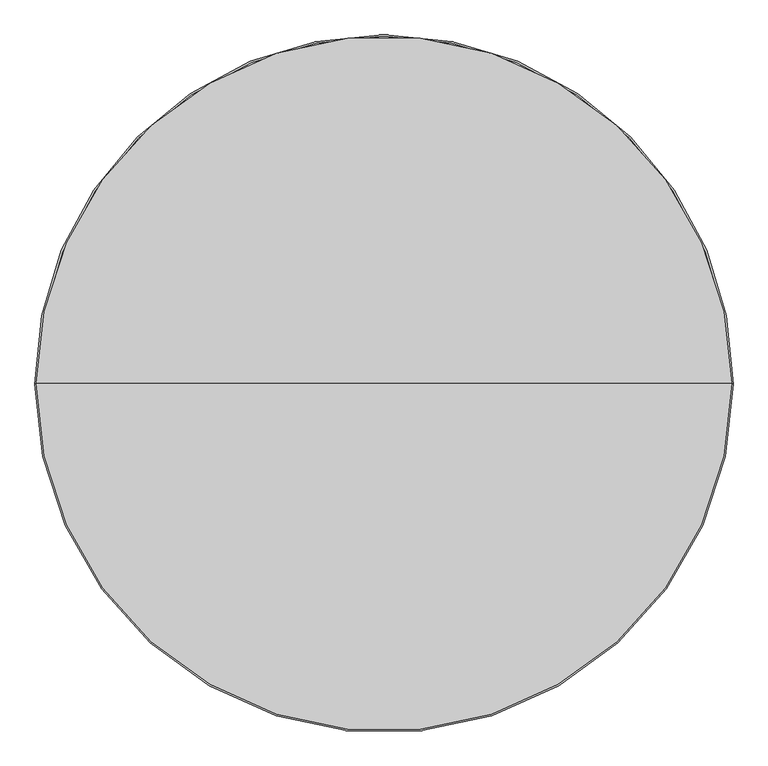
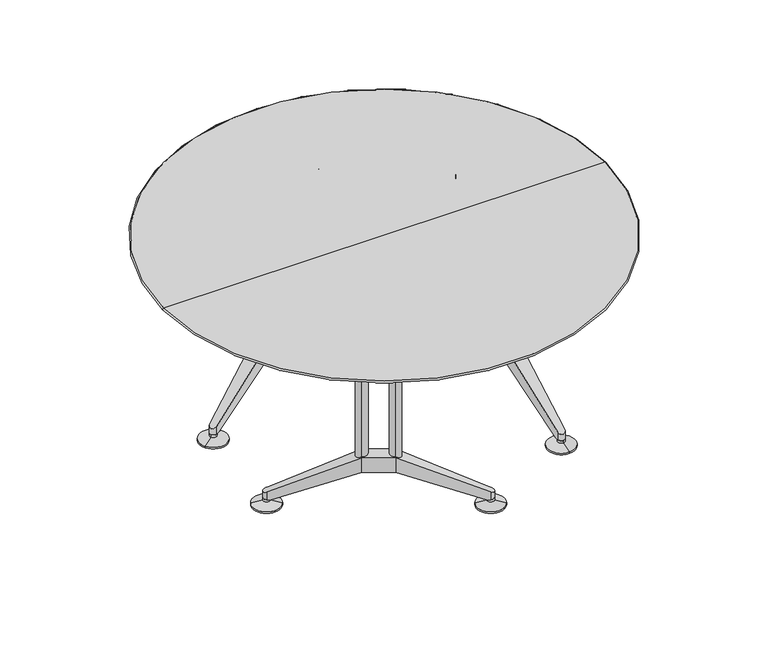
"""IFC4 building model written with IfcOpenShell, lengths in millimetres: furniture geometry, Furniture_Wilkhahn_621-35_Logon Circular Table : Logon 621/35_1600D x 730H."""

from ifc_helpers import new_model, si_unit, point, frame, frame_2d, origin, place, context, project, spatial, polyline, circle_curve, ellipse_curve, trimmed, segment, composite_curve, outline, extrude, source, transform, mapped, element, save
from ifc_brep_helpers import plane_surface, cylinder_surface, revolved_surface, advanced_brep


def furniture_4e294f88(model_context):
    return source(origin(), model_context, "Body", "SolidModel", [
        advanced_brep(
        [(-501.1828683, 228.7674643, 0.0), (-457.8815981, 253.7674643, 0.0), (-544.4841385, 203.7674643, 0.0), (-457.8815981, 253.7674643, 6.0), (-544.4841385, 203.7674643, 6.0), (-490.3786489, 235.0052833, 17.0), (-511.9870878, 222.5296453, 17.0), (-490.3786489, 235.0052833, 27.0), (-511.9870878, 222.5296453, 27.0), (-501.1828683, 228.7674643, 27.0)],
        [
            (0, 1),
            (1, 2, circle_curve(frame((-501.1828683, 228.7674643, 0.0), z_axis=(0.0, 0.0, -1.0), x_axis=(-0.8660254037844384, -0.5000000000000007, 0.0)), 50.0)),
            (2, 0),
            (2, 1, circle_curve(frame((-501.1828683, 228.7674643, 0.0), z_axis=(0.0, 0.0, -1.0), x_axis=(-0.8660254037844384, -0.5000000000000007, 0.0)), 50.0)),
            (1, 3),
            (3, 4, circle_curve(frame((-501.1828683, 228.7674643, 6.0), z_axis=(0.0, 0.0, -1.0), x_axis=(-0.8660254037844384, -0.5000000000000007, 0.0)), 50.0)),
            (4, 2),
            (4, 3, circle_curve(frame((-501.1828683, 228.7674643, 6.0), z_axis=(0.0, 0.0, -1.0), x_axis=(-0.8660254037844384, -0.5000000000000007, 0.0)), 50.0)),
            (3, 5),
            (5, 6, circle_curve(frame((-501.1828683, 228.7674643, 17.0), z_axis=(0.0, 0.0, -1.0), x_axis=(-0.8660254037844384, -0.5000000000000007, 0.0)), 12.475638)),
            (6, 4),
            (6, 5, circle_curve(frame((-501.1828683, 228.7674643, 17.0), z_axis=(0.0, 0.0, -1.0), x_axis=(-0.8660254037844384, -0.5000000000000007, 0.0)), 12.475638)),
            (5, 7),
            (7, 8, circle_curve(frame((-501.1828683, 228.7674643, 27.0), z_axis=(0.0, 0.0, -1.0), x_axis=(-0.8660254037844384, -0.5000000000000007, 0.0)), 12.475638)),
            (8, 6),
            (8, 7, circle_curve(frame((-501.1828683, 228.7674643, 27.0), z_axis=(0.0, 0.0, -1.0), x_axis=(-0.8660254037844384, -0.5000000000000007, 0.0)), 12.475638)),
            (7, 9),
            (9, 8),
        ],
        [
            plane_surface(frame((-501.1828683, 228.7674643, 0.0), z_axis=(0.0, 0.0, -1.0000000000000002), x_axis=(-0.8660254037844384, -0.5000000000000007, 0.0))),
            cylinder_surface(frame((-501.1828683, 228.7674643, 27.0), z_axis=(0.0, 0.0, -1.0), x_axis=(-0.8660254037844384, -0.5000000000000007, 0.0)), 50.0),
            revolved_surface(polyline([(-511.9870878, 222.5296453, 17.0), (-544.4841385, 203.7674643, 6.0)]), (-501.1828683, 228.7674643, 27.0), (0.0, 0.0, -1.0)),
            cylinder_surface(frame((-501.1828683, 228.7674643, 27.0), z_axis=(0.0, 0.0, -1.0), x_axis=(-0.8660254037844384, -0.5000000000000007, 0.0)), 12.475638),
            plane_surface(frame((-501.1828683, 228.7674643, 27.0), z_axis=(0.0, 0.0, 1.0000000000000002), x_axis=(-0.8660254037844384, -0.5000000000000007, 0.0))),
        ],
        [
            (0, [[1, 2, 3]]),
            (0, [[-3, 4, -1]]),
            (1, [[5, 6, 7, -2]]),
            (1, [[-7, 8, -5, -4]]),
            (2, [[9, 10, 11, -6]]),
            (2, [[-11, 12, -9, -8]]),
            (3, [[13, 14, 15, -10]]),
            (3, [[-15, 16, -13, -12]]),
            (4, [[17, 18, -14]]),
            (4, [[-18, -17, -16]]),
        ],
    ),
        advanced_brep(
        [(62.6418658, 554.2918263, 0.0), (105.943136, 579.2918263, 0.0), (149.2444061, 604.2918263, 0.0), (62.6418658, 554.2918263, 6.0), (149.2444061, 604.2918263, 6.0), (95.1389165, 573.0540073, 17.0), (116.7473554, 585.5296453, 17.0), (95.1389165, 573.0540073, 27.0), (116.7473554, 585.5296453, 27.0), (105.943136, 579.2918263, 27.0)],
        [
            (0, 1),
            (1, 2),
            (2, 0, circle_curve(frame((105.943136, 579.2918263, 0.0), z_axis=(0.0, 0.0, -1.0), x_axis=(0.8660254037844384, 0.5000000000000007, 0.0)), 50.0)),
            (0, 2, circle_curve(frame((105.943136, 579.2918263, 0.0), z_axis=(0.0, 0.0, -1.0), x_axis=(0.8660254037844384, 0.5000000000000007, 0.0)), 50.0)),
            (3, 0),
            (2, 4),
            (4, 3, circle_curve(frame((105.943136, 579.2918263, 6.0), z_axis=(0.0, 0.0, -1.0), x_axis=(0.8660254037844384, 0.5000000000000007, 0.0)), 50.0)),
            (3, 4, circle_curve(frame((105.943136, 579.2918263, 6.0), z_axis=(0.0, 0.0, -1.0), x_axis=(0.8660254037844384, 0.5000000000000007, 0.0)), 50.0)),
            (5, 3),
            (4, 6),
            (6, 5, circle_curve(frame((105.943136, 579.2918263, 17.0), z_axis=(0.0, 0.0, -1.0), x_axis=(0.8660254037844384, 0.5000000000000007, 0.0)), 12.475638)),
            (5, 6, circle_curve(frame((105.943136, 579.2918263, 17.0), z_axis=(0.0, 0.0, -1.0), x_axis=(0.8660254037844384, 0.5000000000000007, 0.0)), 12.475638)),
            (7, 5),
            (6, 8),
            (8, 7, circle_curve(frame((105.943136, 579.2918263, 27.0), z_axis=(0.0, 0.0, -1.0), x_axis=(0.8660254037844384, 0.5000000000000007, 0.0)), 12.475638)),
            (7, 8, circle_curve(frame((105.943136, 579.2918263, 27.0), z_axis=(0.0, 0.0, -1.0), x_axis=(0.8660254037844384, 0.5000000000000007, 0.0)), 12.475638)),
            (9, 7),
            (8, 9),
        ],
        [
            plane_surface(frame((105.943136, 579.2918263, 0.0), z_axis=(0.0, 0.0, -1.0000000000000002), x_axis=(0.8660254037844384, 0.5000000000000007, 0.0))),
            cylinder_surface(frame((105.943136, 579.2918263, 27.0), z_axis=(0.0, 0.0, 1.0), x_axis=(0.8660254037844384, 0.5000000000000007, 0.0)), 50.0),
            revolved_surface(polyline([(149.2444061, 604.2918263, 6.0), (116.7473554, 585.5296453, 17.0)]), (105.943136, 579.2918263, 27.0), (0.0, 0.0, 1.0)),
            cylinder_surface(frame((105.943136, 579.2918263, 27.0), z_axis=(0.0, 0.0, 1.0), x_axis=(0.8660254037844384, 0.5000000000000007, 0.0)), 12.475638),
            plane_surface(frame((105.943136, 579.2918263, 27.0), z_axis=(0.0, 0.0, 1.0000000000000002), x_axis=(0.8660254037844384, 0.5000000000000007, 0.0))),
        ],
        [
            (0, [[1, 2, 3]]),
            (0, [[-2, -1, 4]]),
            (1, [[5, -3, 6, 7]]),
            (1, [[-6, -4, -5, 8]]),
            (2, [[9, -7, 10, 11]]),
            (2, [[-10, -8, -9, 12]]),
            (3, [[13, -11, 14, 15]]),
            (3, [[-14, -12, -13, 16]]),
            (4, [[17, -15, 18]]),
            (4, [[-18, -16, -17]]),
        ],
    ),
        extrude(outline(composite_curve([segment(polyline([(-256.0192126, 399.1802804), (-164.2205198, 452.1802804), (-36.3646221, 556.8469052)]), True, "CONTINUOUS"), segment(trimmed(circle_curve(frame_2d((-28.7632782, 547.5614558)), 12.0), [point((-36.3646221, 556.8469052))], [point((-18.3709734, 553.5614558))], False, "CARTESIAN"), True, "CONTINUOUS"), segment(polyline([(-18.3709734, 553.5614558), (21.5029267, 484.4978349)]), True, "CONTINUOUS"), segment(trimmed(circle_curve(frame_2d((11.1106219, 478.4978349)), 12.0), [point((21.5029267, 484.4978349))], [point((15.351385, 467.2721533))], False, "CARTESIAN"), True, "CONTINUOUS"), segment(polyline([(15.351385, 467.2721533), (-139.2205198, 408.8790102), (-231.0192126, 355.8790102), (-358.8751102, 251.2123855)]), True, "CONTINUOUS"), segment(trimmed(circle_curve(frame_2d((-366.4764541, 260.4978349)), 12.0), [point((-358.8751102, 251.2123855))], [point((-376.868759, 254.4978349))], False, "CARTESIAN"), True, "CONTINUOUS"), segment(polyline([(-376.868759, 254.4978349), (-416.7426591, 323.5614558)]), True, "CONTINUOUS"), segment(trimmed(circle_curve(frame_2d((-406.3503543, 329.5614558)), 12.0), [point((-416.7426591, 323.5614558))], [point((-410.5911174, 340.7871374))], False, "CARTESIAN"), True, "CONTINUOUS"), segment(polyline([(-410.5911174, 340.7871374), (-256.0192126, 399.1802804)]), True, "CONTINUOUS")], self_intersect=False)), frame((0.0, 0.0, 675.0), z_axis=(0.0, 0.0, 1.0), x_axis=(1.0, 0.0, 0.0)), (0.0, 0.0, 1.0), 29.0),
        advanced_brep(
        [(-139.2205198, 408.8790102, 140.0), (-139.2205198, 408.8790102, 195.0), (-231.0192126, 355.8790102, 195.0), (-231.0192126, 355.8790102, 140.0), (-164.2205198, 452.1802804, 195.0), (-164.2205198, 452.1802804, 140.0), (-256.0192126, 399.1802804, 140.0), (-256.0192126, 399.1802804, 195.0), (88.3923956, 584.7393244, 27.0), (99.4484257, 590.5409945, 27.0), (116.7473554, 585.5296453, 27.0), (112.4378462, 568.0426582, 27.0), (101.8854375, 561.3686903, 27.0), (112.4378462, 568.0426582, 56.4159205), (116.7473554, 585.5296453, 50.6048844), (99.4484257, 590.5409945, 56.4159205), (-507.6775786, 240.0166325, 56.4159205), (-497.1251698, 246.6906004, 27.0), (-507.6775786, 240.0166325, 27.0), (-494.6881581, 217.5182962, 27.0), (-483.6321279, 223.3199663, 27.0), (-494.6881581, 217.5182962, 56.4159205), (-511.9870878, 222.5296453, 50.6048844), (-511.9870878, 222.5296453, 27.0)],
        [
            (0, 1),
            (1, 2),
            (2, 3),
            (3, 0),
            (4, 5),
            (5, 6),
            (6, 7),
            (7, 4),
            (8, 9),
            (9, 10, circle_curve(frame((105.4890251, 579.0296453, 27.0), z_axis=(0.0, 0.0, -1.0), x_axis=(-0.5000000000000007, 0.8660254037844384, 0.0)), 13.0)),
            (10, 11, circle_curve(frame((105.4890251, 579.0296453, 27.0), z_axis=(0.0, 0.0, -1.0), x_axis=(-0.5000000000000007, 0.8660254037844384, 0.0)), 13.0)),
            (11, 12),
            (12, 8),
            (1, 13),
            (13, 14, ellipse_curve(frame((105.4890251, 579.0296453, 56.6601634), z_axis=(0.3656647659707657, 0.21111665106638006, 0.9064871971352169), x_axis=(0.7850409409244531, 0.4532435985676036, -0.4222333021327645)), 14.341074, 13.0)),
            (14, 15, ellipse_curve(frame((105.4890251, 579.0296453, 56.6601634), z_axis=(0.3656647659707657, 0.21111665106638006, 0.9064871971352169), x_axis=(0.7850409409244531, 0.4532435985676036, -0.4222333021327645)), 14.341074, 13.0)),
            (15, 4),
            (4, 1),
            (5, 8),
            (12, 0),
            (0, 5),
            (16, 7),
            (6, 17),
            (17, 18),
            (18, 16),
            (19, 20),
            (20, 3),
            (2, 21),
            (21, 19),
            (7, 2),
            (3, 6),
            (21, 22, ellipse_curve(frame((-500.7287575, 229.0296453, 56.6601634), z_axis=(0.36566476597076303, 0.21111665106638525, -0.9064871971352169), x_axis=(-0.785040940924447, -0.4532435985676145, -0.4222333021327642)), 14.341074, 13.0)),
            (22, 16, ellipse_curve(frame((-500.7287575, 229.0296453, 56.6601634), z_axis=(0.36566476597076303, 0.21111665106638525, -0.9064871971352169), x_axis=(-0.785040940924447, -0.4532435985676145, -0.4222333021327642)), 14.341074, 13.0)),
            (18, 23, circle_curve(frame((-500.7287575, 229.0296453, 27.0), z_axis=(0.0, 0.0, 1.0), x_axis=(-0.5000000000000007, 0.8660254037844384, 0.0)), 13.0)),
            (23, 19, circle_curve(frame((-500.7287575, 229.0296453, 27.0), z_axis=(0.0, 0.0, 1.0), x_axis=(-0.5000000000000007, 0.8660254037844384, 0.0)), 13.0)),
            (11, 13),
            (9, 15),
            (17, 20),
        ],
        [
            plane_surface(frame((114.7444265, 555.5057403, 27.0), z_axis=(0.5000000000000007, -0.8660254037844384, 0.0), x_axis=(-0.8660254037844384, -0.5000000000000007, 0.0))),
            plane_surface(frame((89.7444265, 598.8070105, 27.0), z_axis=(-0.5000000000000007, 0.8660254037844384, 0.0), x_axis=(0.8660254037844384, 0.5000000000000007, 0.0))),
            plane_surface(frame((82.6389165, 594.7046424, 27.0), z_axis=(0.0, 0.0, -1.0000000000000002), x_axis=(0.5000000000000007, -0.8660254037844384, 0.0))),
            plane_surface(frame((104.2473554, 607.1802804, 50.6048844), z_axis=(0.36566476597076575, 0.2111166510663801, 0.9064871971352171), x_axis=(0.5000000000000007, -0.8660254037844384, 0.0))),
            plane_surface(frame((-164.2205198, 452.1802804, 140.0), z_axis=(-0.31915000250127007, -0.18426133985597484, -0.9296187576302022), x_axis=(0.5000000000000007, -0.8660254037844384, 0.0))),
            plane_surface(frame((-256.0192126, 399.1802804, 195.0), z_axis=(-0.5345246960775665, 0.8451528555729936, 0.0), x_axis=(0.0, 0.0, -1.0))),
            plane_surface(frame((-494.6881581, 217.5182962, 195.0), z_axis=(0.4646614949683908, -0.8854883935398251, 0.0), x_axis=(0.0, 0.0, -1.0))),
            plane_surface(frame((-164.2205198, 452.1802804, 195.0), z_axis=(0.0, 0.0, 1.0000000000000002), x_axis=(0.5000000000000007, -0.8660254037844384, 0.0))),
            plane_surface(frame((-256.0192126, 399.1802804, 140.0), z_axis=(0.0, 0.0, -1.0000000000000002), x_axis=(0.5000000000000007, -0.8660254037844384, 0.0))),
            cylinder_surface(frame((-500.7287575, 229.0296453, 0.0), z_axis=(0.0, 0.0, -1.0), x_axis=(-0.5000000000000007, 0.8660254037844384, 0.0)), 13.0),
            plane_surface(frame((-139.2205198, 408.8790102, 195.0), z_axis=(0.5345246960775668, -0.8451528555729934, 0.0), x_axis=(0.0, 0.0, -1.0))),
            cylinder_surface(frame((105.4890251, 579.0296453, -14.190167), z_axis=(0.0, 0.0, -1.0), x_axis=(-0.5000000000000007, 0.8660254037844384, 0.0)), 13.0),
            plane_surface(frame((99.4484257, 590.5409945, 195.0), z_axis=(-0.4646614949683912, 0.8854883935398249, 0.0), x_axis=(0.0, 0.0, -1.0))),
            plane_surface(frame((-256.0192126, 399.1802804, 195.0), z_axis=(-0.36566476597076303, -0.21111665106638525, 0.9064871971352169), x_axis=(0.5000000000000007, -0.8660254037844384, 0.0))),
            plane_surface(frame((-524.4870878, 244.1802804, 27.0), z_axis=(0.0, 0.0, -1.0000000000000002), x_axis=(0.5000000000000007, -0.8660254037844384, 0.0))),
            plane_surface(frame((-502.8786489, 256.6559184, 27.0), z_axis=(0.3191500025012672, 0.18426133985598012, -0.9296187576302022), x_axis=(0.5000000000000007, -0.8660254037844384, 0.0))),
        ],
        [
            (0, [[1, 2, 3, 4]]),
            (1, [[5, 6, 7, 8]]),
            (2, [[9, 10, 11, 12, 13]]),
            (3, [[14, 15, 16, 17, 18]]),
            (4, [[19, -13, 20, 21]]),
            (5, [[22, -7, 23, 24, 25]]),
            (6, [[26, 27, -3, 28, 29]]),
            (7, [[-18, -8, 30, -2]]),
            (8, [[31, -6, -21, -4]]),
            (9, [[32, 33, -25, 34, 35, -29]]),
            (10, [[-14, -1, -20, -12, 36]]),
            (11, [[-11, -10, 37, -16, -15, -36]]),
            (12, [[-9, -19, -5, -17, -37]]),
            (13, [[-22, -33, -32, -28, -30]]),
            (14, [[-26, -35, -34, -24, 38]]),
            (15, [[-27, -38, -23, -31]]),
        ],
    ),
        extrude(outline(composite_curve([segment(trimmed(circle_curve(frame_2d((-243.5192126, 377.5296453)), 20.0), [point((-233.5192126, 360.2091373))], [point((-253.5192126, 394.8501534))], False, "CARTESIAN"), True, "CONTINUOUS"), segment(trimmed(circle_curve(frame_2d((-243.5192126, 377.5296453)), 20.0), [point((-253.5192126, 394.8501534))], [point((-233.5192126, 360.2091373))], False, "CARTESIAN"), True, "CONTINUOUS")], self_intersect=False)), frame((0.0, 0.0, 140.0), z_axis=(0.0, 0.0, 1.0), x_axis=(1.0, 0.0, 0.0)), (0.0, 0.0, 1.0), 535.0),
        extrude(outline(composite_curve([segment(trimmed(circle_curve(frame_2d((-151.7205198, 430.5296453)), 20.0), [point((-141.7205198, 413.2091373))], [point((-161.7205198, 447.8501534))], False, "CARTESIAN"), True, "CONTINUOUS"), segment(trimmed(circle_curve(frame_2d((-151.7205198, 430.5296453)), 20.0), [point((-161.7205198, 447.8501534))], [point((-141.7205198, 413.2091373))], False, "CARTESIAN"), True, "CONTINUOUS")], self_intersect=False)), frame((0.0, 0.0, 140.0), z_axis=(0.0, 0.0, 1.0), x_axis=(1.0, 0.0, 0.0)), (0.0, 0.0, 1.0), 535.0),
        advanced_brep(
        [(74.9473575, -509.4940964, 0.0), (31.6460873, -484.4940964, 0.0), (118.2486277, -534.4940964, 0.0), (31.6460873, -484.4940964, 6.0), (118.2486277, -534.4940964, 6.0), (64.143138, -503.2562774, 17.0), (85.7515769, -515.7319154, 17.0), (64.143138, -503.2562774, 27.0), (85.7515769, -515.7319154, 27.0), (74.9473575, -509.4940964, 27.0)],
        [
            (0, 1),
            (1, 2, circle_curve(frame((74.9473575, -509.4940964, 0.0), z_axis=(0.0, 0.0, -1.0), x_axis=(0.8660254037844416, -0.499999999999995, 0.0)), 50.0)),
            (2, 0),
            (2, 1, circle_curve(frame((74.9473575, -509.4940964, 0.0), z_axis=(0.0, 0.0, -1.0), x_axis=(0.8660254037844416, -0.499999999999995, 0.0)), 50.0)),
            (1, 3),
            (3, 4, circle_curve(frame((74.9473575, -509.4940964, 6.0), z_axis=(0.0, 0.0, -1.0), x_axis=(0.8660254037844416, -0.499999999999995, 0.0)), 50.0)),
            (4, 2),
            (4, 3, circle_curve(frame((74.9473575, -509.4940964, 6.0), z_axis=(0.0, 0.0, -1.0), x_axis=(0.8660254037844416, -0.499999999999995, 0.0)), 50.0)),
            (3, 5),
            (5, 6, circle_curve(frame((74.9473575, -509.4940964, 17.0), z_axis=(0.0, 0.0, -1.0), x_axis=(0.8660254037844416, -0.499999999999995, 0.0)), 12.475638)),
            (6, 4),
            (6, 5, circle_curve(frame((74.9473575, -509.4940964, 17.0), z_axis=(0.0, 0.0, -1.0), x_axis=(0.8660254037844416, -0.499999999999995, 0.0)), 12.475638)),
            (5, 7),
            (7, 8, circle_curve(frame((74.9473575, -509.4940964, 27.0), z_axis=(0.0, 0.0, -1.0), x_axis=(0.8660254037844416, -0.499999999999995, 0.0)), 12.475638)),
            (8, 6),
            (8, 7, circle_curve(frame((74.9473575, -509.4940964, 27.0), z_axis=(0.0, 0.0, -1.0), x_axis=(0.8660254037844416, -0.499999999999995, 0.0)), 12.475638)),
            (7, 9),
            (9, 8),
        ],
        [
            plane_surface(frame((74.9473575, -509.4940964, 0.0), z_axis=(0.0, 0.0, -1.0), x_axis=(0.8660254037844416, -0.499999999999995, 0.0))),
            cylinder_surface(frame((74.9473575, -509.4940964, 27.0), z_axis=(0.0, 0.0, -1.0), x_axis=(0.8660254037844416, -0.499999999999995, 0.0)), 50.0),
            revolved_surface(polyline([(85.7515769, -515.7319154, 17.0), (118.2486277, -534.4940964, 6.0)]), (74.9473575, -509.4940964, 27.0), (0.0, 0.0, -1.0)),
            cylinder_surface(frame((74.9473575, -509.4940964, 27.0), z_axis=(0.0, 0.0, -1.0), x_axis=(0.8660254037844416, -0.499999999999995, 0.0)), 12.475638),
            plane_surface(frame((74.9473575, -509.4940964, 27.0), z_axis=(0.0, 0.0, 1.0), x_axis=(0.8660254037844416, -0.499999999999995, 0.0))),
        ],
        [
            (0, [[1, 2, 3]]),
            (0, [[-3, 4, -1]]),
            (1, [[5, 6, 7, -2]]),
            (1, [[-7, 8, -5, -4]]),
            (2, [[9, 10, 11, -6]]),
            (2, [[-11, 12, -9, -8]]),
            (3, [[13, 14, 15, -10]]),
            (3, [[-15, 16, -13, -12]]),
            (4, [[17, 18, -14]]),
            (4, [[-18, -17, -16]]),
        ],
    ),
        advanced_brep(
        [(-488.8773766, -183.9697344, 0.0), (-532.1786468, -158.9697344, 0.0), (-575.479917, -133.9697344, 0.0), (-488.8773766, -183.9697344, 6.0), (-575.479917, -133.9697344, 6.0), (-521.3744274, -165.2075534, 17.0), (-542.9828662, -152.7319154, 17.0), (-521.3744274, -165.2075534, 27.0), (-542.9828662, -152.7319154, 27.0), (-532.1786468, -158.9697344, 27.0)],
        [
            (0, 1),
            (1, 2),
            (2, 0, circle_curve(frame((-532.1786468, -158.9697344, 0.0), z_axis=(0.0, 0.0, -1.0), x_axis=(-0.8660254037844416, 0.499999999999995, 0.0)), 50.0)),
            (0, 2, circle_curve(frame((-532.1786468, -158.9697344, 0.0), z_axis=(0.0, 0.0, -1.0), x_axis=(-0.8660254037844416, 0.499999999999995, 0.0)), 50.0)),
            (3, 0),
            (2, 4),
            (4, 3, circle_curve(frame((-532.1786468, -158.9697344, 6.0), z_axis=(0.0, 0.0, -1.0), x_axis=(-0.8660254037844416, 0.499999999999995, 0.0)), 50.0)),
            (3, 4, circle_curve(frame((-532.1786468, -158.9697344, 6.0), z_axis=(0.0, 0.0, -1.0), x_axis=(-0.8660254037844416, 0.499999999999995, 0.0)), 50.0)),
            (5, 3),
            (4, 6),
            (6, 5, circle_curve(frame((-532.1786468, -158.9697344, 17.0), z_axis=(0.0, 0.0, -1.0), x_axis=(-0.8660254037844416, 0.499999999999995, 0.0)), 12.475638)),
            (5, 6, circle_curve(frame((-532.1786468, -158.9697344, 17.0), z_axis=(0.0, 0.0, -1.0), x_axis=(-0.8660254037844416, 0.499999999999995, 0.0)), 12.475638)),
            (7, 5),
            (6, 8),
            (8, 7, circle_curve(frame((-532.1786468, -158.9697344, 27.0), z_axis=(0.0, 0.0, -1.0), x_axis=(-0.8660254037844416, 0.499999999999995, 0.0)), 12.475638)),
            (7, 8, circle_curve(frame((-532.1786468, -158.9697344, 27.0), z_axis=(0.0, 0.0, -1.0), x_axis=(-0.8660254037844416, 0.499999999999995, 0.0)), 12.475638)),
            (9, 7),
            (8, 9),
        ],
        [
            plane_surface(frame((-532.1786468, -158.9697344, 0.0), z_axis=(0.0, 0.0, -1.0), x_axis=(-0.8660254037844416, 0.499999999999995, 0.0))),
            cylinder_surface(frame((-532.1786468, -158.9697344, 27.0), z_axis=(0.0, 0.0, 1.0), x_axis=(-0.8660254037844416, 0.499999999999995, 0.0)), 50.0),
            revolved_surface(polyline([(-575.479917, -133.9697344, 6.0), (-542.9828662, -152.7319154, 17.0)]), (-532.1786468, -158.9697344, 27.0), (0.0, 0.0, 1.0)),
            cylinder_surface(frame((-532.1786468, -158.9697344, 27.0), z_axis=(0.0, 0.0, 1.0), x_axis=(-0.8660254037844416, 0.499999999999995, 0.0)), 12.475638),
            plane_surface(frame((-532.1786468, -158.9697344, 27.0), z_axis=(0.0, 0.0, 1.0), x_axis=(-0.8660254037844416, 0.499999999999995, 0.0))),
        ],
        [
            (0, [[1, 2, 3]]),
            (0, [[-2, -1, 4]]),
            (1, [[5, -3, 6, 7]]),
            (1, [[-6, -4, -5, 8]]),
            (2, [[9, -7, 10, 11]]),
            (2, [[-10, -8, -9, 12]]),
            (3, [[13, -11, 14, 15]]),
            (3, [[-14, -12, -13, 16]]),
            (4, [[17, -15, 18]]),
            (4, [[-18, -16, -17]]),
        ],
    ),
        extrude(outline(composite_curve([segment(polyline([(-195.2162983, -382.3825505), (-287.0149911, -329.3825505), (-441.5868959, -270.9894075)]), True, "CONTINUOUS"), segment(trimmed(circle_curve(frame_2d((-437.3461327, -259.7637259)), 12.0), [point((-441.5868959, -270.9894075))], [point((-447.7384376, -253.7637259))], False, "CARTESIAN"), True, "CONTINUOUS"), segment(polyline([(-447.7384376, -253.7637259), (-407.8645375, -184.700105)]), True, "CONTINUOUS"), segment(trimmed(circle_curve(frame_2d((-397.4722326, -190.700105)), 12.0), [point((-407.8645375, -184.700105))], [point((-389.8708887, -181.4146556))], False, "CARTESIAN"), True, "CONTINUOUS"), segment(polyline([(-389.8708887, -181.4146556), (-262.0149911, -286.0812803), (-170.2162983, -339.0812803), (-15.6443935, -397.4744233)]), True, "CONTINUOUS"), segment(trimmed(circle_curve(frame_2d((-19.8851566, -408.700105)), 12.0), [point((-15.6443935, -397.4744233))], [point((-9.4928517, -414.700105))], False, "CARTESIAN"), True, "CONTINUOUS"), segment(polyline([(-9.4928517, -414.700105), (-49.3667519, -483.7637259)]), True, "CONTINUOUS"), segment(trimmed(circle_curve(frame_2d((-59.7590567, -477.7637259)), 12.0), [point((-49.3667519, -483.7637259))], [point((-67.3604006, -487.0491753))], False, "CARTESIAN"), True, "CONTINUOUS"), segment(polyline([(-67.3604006, -487.0491753), (-195.2162983, -382.3825505)]), True, "CONTINUOUS")], self_intersect=False)), frame((0.0, 0.0, 675.0), z_axis=(0.0, 0.0, 1.0), x_axis=(1.0, 0.0, 0.0)), (0.0, 0.0, 1.0), 29.0),
        advanced_brep(
        [(-262.0149911, -286.0812803, 140.0), (-262.0149911, -286.0812803, 195.0), (-170.2162983, -339.0812803, 195.0), (-170.2162983, -339.0812803, 140.0), (-287.0149911, -329.3825505, 195.0), (-287.0149911, -329.3825505, 140.0), (-195.2162983, -382.3825505, 140.0), (-195.2162983, -382.3825505, 195.0), (-528.1209483, -176.8928705, 27.0), (-538.673357, -170.2189026, 27.0), (-542.9828662, -152.7319154, 27.0), (-525.6839366, -147.7205663, 27.0), (-514.6279064, -153.5222364, 27.0), (-525.6839366, -147.7205663, 56.4159205), (-542.9828662, -152.7319154, 50.6048844), (-538.673357, -170.2189026, 56.4159205), (68.4526472, -520.7432645, 56.4159205), (57.3966171, -514.9415945, 27.0), (68.4526472, -520.7432645, 27.0), (81.4420677, -498.2449283, 27.0), (70.889659, -491.5709604, 27.0), (81.4420677, -498.2449283, 56.4159205), (85.7515769, -515.7319154, 50.6048844), (85.7515769, -515.7319154, 27.0)],
        [
            (0, 1),
            (1, 2),
            (2, 3),
            (3, 0),
            (4, 5),
            (5, 6),
            (6, 7),
            (7, 4),
            (8, 9),
            (9, 10, circle_curve(frame((-531.724536, -159.2319154, 27.0), z_axis=(0.0, 0.0, -1.0), x_axis=(-0.499999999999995, -0.8660254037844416, 0.0)), 13.0)),
            (10, 11, circle_curve(frame((-531.724536, -159.2319154, 27.0), z_axis=(0.0, 0.0, -1.0), x_axis=(-0.499999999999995, -0.8660254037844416, 0.0)), 13.0)),
            (11, 12),
            (12, 8),
            (1, 13),
            (13, 14, ellipse_curve(frame((-531.724536, -159.2319154, 56.6601634), z_axis=(-0.36566476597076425, 0.21111665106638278, 0.906487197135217), x_axis=(-0.7850409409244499, 0.4532435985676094, -0.4222333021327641)), 14.341074, 13.0)),
            (14, 15, ellipse_curve(frame((-531.724536, -159.2319154, 56.6601634), z_axis=(-0.36566476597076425, 0.21111665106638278, 0.906487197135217), x_axis=(-0.7850409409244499, 0.4532435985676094, -0.4222333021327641)), 14.341074, 13.0)),
            (15, 4),
            (4, 1),
            (5, 8),
            (12, 0),
            (0, 5),
            (16, 7),
            (6, 17),
            (17, 18),
            (18, 16),
            (19, 20),
            (20, 3),
            (2, 21),
            (21, 19),
            (7, 2),
            (3, 6),
            (21, 22, ellipse_curve(frame((74.4932467, -509.2319154, 56.6601634), z_axis=(-0.3656647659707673, 0.2111166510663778, -0.9064871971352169), x_axis=(0.7850409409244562, -0.4532435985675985, -0.4222333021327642)), 14.341074, 13.0)),
            (22, 16, ellipse_curve(frame((74.4932467, -509.2319154, 56.6601634), z_axis=(-0.3656647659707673, 0.2111166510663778, -0.9064871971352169), x_axis=(0.7850409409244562, -0.4532435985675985, -0.4222333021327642)), 14.341074, 13.0)),
            (18, 23, circle_curve(frame((74.4932467, -509.2319154, 27.0), z_axis=(0.0, 0.0, 1.0), x_axis=(-0.499999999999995, -0.8660254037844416, 0.0)), 13.0)),
            (23, 19, circle_curve(frame((74.4932467, -509.2319154, 27.0), z_axis=(0.0, 0.0, 1.0), x_axis=(-0.499999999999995, -0.8660254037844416, 0.0)), 13.0)),
            (11, 13),
            (9, 15),
            (17, 20),
        ],
        [
            plane_surface(frame((-515.9799373, -139.4545503, 27.0), z_axis=(0.499999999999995, 0.8660254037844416, 0.0), x_axis=(0.8660254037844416, -0.499999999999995, 0.0))),
            plane_surface(frame((-540.9799373, -182.7558204, 27.0), z_axis=(-0.499999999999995, -0.8660254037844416, 0.0), x_axis=(-0.8660254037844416, 0.499999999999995, 0.0))),
            plane_surface(frame((-533.8744274, -186.8581885, 27.0), z_axis=(0.0, 0.0, -1.0), x_axis=(0.499999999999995, 0.8660254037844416, 0.0))),
            plane_surface(frame((-555.4828662, -174.3825505, 50.6048844), z_axis=(-0.36566476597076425, 0.21111665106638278, 0.906487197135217), x_axis=(0.499999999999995, 0.8660254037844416, 0.0))),
            plane_surface(frame((-287.0149911, -329.3825505, 140.0), z_axis=(0.31915000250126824, -0.18426133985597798, -0.929618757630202), x_axis=(0.499999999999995, 0.8660254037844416, 0.0))),
            plane_surface(frame((-195.2162983, -382.3825505, 195.0), z_axis=(-0.4646614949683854, -0.8854883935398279, 0.0), x_axis=(0.0, 0.0, -1.0))),
            plane_surface(frame((81.4420677, -498.2449283, 195.0), z_axis=(0.5345246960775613, 0.8451528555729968, 0.0), x_axis=(0.0, 0.0, -1.0))),
            plane_surface(frame((-287.0149911, -329.3825505, 195.0), z_axis=(0.0, 0.0, 1.0), x_axis=(0.499999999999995, 0.8660254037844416, 0.0))),
            plane_surface(frame((-195.2162983, -382.3825505, 140.0), z_axis=(0.0, 0.0, -1.0), x_axis=(0.499999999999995, 0.8660254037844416, 0.0))),
            cylinder_surface(frame((74.4932467, -509.2319154, 0.0), z_axis=(0.0, 0.0, -1.0), x_axis=(-0.499999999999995, -0.8660254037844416, 0.0)), 13.0),
            plane_surface(frame((-262.0149911, -286.0812803, 195.0), z_axis=(0.46466149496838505, 0.8854883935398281, 0.0), x_axis=(0.0, 0.0, -1.0))),
            cylinder_surface(frame((-531.724536, -159.2319154, -14.190167), z_axis=(0.0, 0.0, -1.0), x_axis=(-0.499999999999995, -0.8660254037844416, 0.0)), 13.0),
            plane_surface(frame((-538.673357, -170.2189026, 195.0), z_axis=(-0.5345246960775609, -0.845152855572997, 0.0), x_axis=(0.0, 0.0, -1.0))),
            plane_surface(frame((-195.2162983, -382.3825505, 195.0), z_axis=(0.3656647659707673, -0.2111166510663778, 0.9064871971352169), x_axis=(0.499999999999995, 0.8660254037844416, 0.0))),
            plane_surface(frame((73.2515769, -537.3825505, 27.0), z_axis=(0.0, 0.0, -1.0), x_axis=(0.499999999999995, 0.8660254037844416, 0.0))),
            plane_surface(frame((51.643138, -524.9069125, 27.0), z_axis=(-0.31915000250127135, 0.18426133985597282, -0.929618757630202), x_axis=(0.499999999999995, 0.8660254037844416, 0.0))),
        ],
        [
            (0, [[1, 2, 3, 4]]),
            (1, [[5, 6, 7, 8]]),
            (2, [[9, 10, 11, 12, 13]]),
            (3, [[14, 15, 16, 17, 18]]),
            (4, [[19, -13, 20, 21]]),
            (5, [[22, -7, 23, 24, 25]]),
            (6, [[26, 27, -3, 28, 29]]),
            (7, [[-18, -8, 30, -2]]),
            (8, [[31, -6, -21, -4]]),
            (9, [[32, 33, -25, 34, 35, -29]]),
            (10, [[-14, -1, -20, -12, 36]]),
            (11, [[-11, -10, 37, -16, -15, -36]]),
            (12, [[-9, -19, -5, -17, -37]]),
            (13, [[-22, -33, -32, -28, -30]]),
            (14, [[-26, -35, -34, -24, 38]]),
            (15, [[-27, -38, -23, -31]]),
        ],
    ),
        extrude(outline(composite_curve([segment(trimmed(circle_curve(frame_2d((-182.7162983, -360.7319154)), 20.0), [point((-172.7162983, -343.4114074))], [point((-192.7162983, -378.0524235))], False, "CARTESIAN"), True, "CONTINUOUS"), segment(trimmed(circle_curve(frame_2d((-182.7162983, -360.7319154)), 20.0), [point((-192.7162983, -378.0524235))], [point((-172.7162983, -343.4114074))], False, "CARTESIAN"), True, "CONTINUOUS")], self_intersect=False)), frame((0.0, 0.0, 140.0), z_axis=(0.0, 0.0, 1.0), x_axis=(1.0, 0.0, 0.0)), (0.0, 0.0, 1.0), 535.0),
        extrude(outline(composite_curve([segment(trimmed(circle_curve(frame_2d((-274.5149911, -307.7319154)), 20.0), [point((-264.5149911, -290.4114074))], [point((-284.5149911, -325.0524235))], False, "CARTESIAN"), True, "CONTINUOUS"), segment(trimmed(circle_curve(frame_2d((-274.5149911, -307.7319154)), 20.0), [point((-284.5149911, -325.0524235))], [point((-264.5149911, -290.4114074))], False, "CARTESIAN"), True, "CONTINUOUS")], self_intersect=False)), frame((0.0, 0.0, 140.0), z_axis=(0.0, 0.0, 1.0), x_axis=(1.0, 0.0, 0.0)), (0.0, 0.0, 1.0), 535.0),
        advanced_brep(
        [(0.0, 25.9511544, 703.9999792), (770.6711015, 25.9511544, 703.9999792), (-770.6711015, 25.9511544, 703.9999792), (-796.5127954, 25.9511544, 730.0), (796.5127954, 25.9511544, 730.0), (0.0, 25.9511544, 730.0), (-798.5546021, 25.9511544, 723.5242165), (798.5546021, 25.9511544, 723.5242165)],
        [
            (0, 1),
            (1, 2, circle_curve(frame((0.0, 25.9511544, 703.9999792), z_axis=(0.0, 0.0, -1.0), x_axis=(1.0, 0.0, 0.0)), 770.6711015)),
            (2, 0),
            (2, 1, circle_curve(frame((0.0, 25.9511544, 703.9999792), z_axis=(0.0, 0.0, -1.0), x_axis=(1.0, 0.0, 0.0)), 770.6711015)),
            (3, 4, circle_curve(frame((0.0, 25.9511544, 730.0), z_axis=(0.0, 0.0, 1.0), x_axis=(1.0, 0.0, 0.0)), 796.5127954)),
            (4, 5),
            (5, 3),
            (4, 3, circle_curve(frame((0.0, 25.9511544, 730.0), z_axis=(0.0, 0.0, 1.0), x_axis=(1.0, 0.0, 0.0)), 796.5127954)),
            (6, 7, circle_curve(frame((0.0, 25.9511544, 723.5242165), z_axis=(0.0, 0.0, 1.0), x_axis=(1.0, 0.0, 0.0)), 798.5546021)),
            (7, 4, circle_curve(frame((796.5127954, 25.9511544, 726.4402187), z_axis=(0.0, -1.0, 0.0), x_axis=(-1.0, 0.0, 0.0)), 3.5597813)),
            (3, 6, circle_curve(frame((-796.5127954, 25.9511544, 726.4402187), z_axis=(0.0, -1.0, 0.0), x_axis=(1.0, 0.0, 0.0)), 3.5597813)),
            (7, 6, circle_curve(frame((0.0, 25.9511544, 723.5242165), z_axis=(0.0, 0.0, 1.0), x_axis=(1.0, 0.0, 0.0)), 798.5546021)),
            (1, 7),
            (6, 2),
        ],
        [
            plane_surface(frame((0.0, 25.9511544, 703.9999792), z_axis=(0.0, 0.0, -1.0), x_axis=(1.0, 0.0, 0.0))),
            plane_surface(frame((0.0, 25.9511544, 730.0), z_axis=(0.0, 0.0, 1.0), x_axis=(1.0, 0.0, 0.0))),
            revolved_surface(trimmed(ellipse_curve(frame((796.5127954, 25.9511544, 726.4402187), z_axis=(0.0, 1.0, 0.0), x_axis=(-1.0, 0.0, 0.0)), 3.5597813, 3.5597813), [point((796.5127954, 25.9511544, 730.0))], [point((798.5546021, 25.9511544, 723.5242165))], True, "CARTESIAN"), (0.0, 25.9511544, 790.0), (0.0, 0.0, -1.0)),
            revolved_surface(polyline([(798.5546021, 25.9511544, 723.5242165), (770.6711015, 25.9511544, 703.9999792)]), (0.0, 25.9511544, 790.0), (0.0, 0.0, -1.0)),
        ],
        [
            (0, [[1, 2, 3]]),
            (0, [[-3, 4, -1]]),
            (1, [[5, 6, 7]]),
            (1, [[8, -7, -6]]),
            (2, [[9, 10, -5, 11]]),
            (2, [[12, -11, -8, -10]]),
            (3, [[-2, 13, -9, 14]]),
            (3, [[-4, -14, -12, -13]]),
        ],
    ),
        advanced_brep(
        [(426.2355108, 358.5800954, 0.0), (426.2355108, 308.5800954, 0.0), (426.2355108, 408.5800954, 0.0), (426.2355108, 308.5800954, 6.0), (426.2355108, 408.5800954, 6.0), (426.2355108, 346.1044574, 17.0), (426.2355108, 371.0557334, 17.0), (426.2355108, 346.1044574, 27.0), (426.2355108, 371.0557334, 27.0), (426.2355108, 358.5800954, 27.0)],
        [
            (0, 1),
            (1, 2, circle_curve(frame((426.2355108, 358.5800954, 0.0), z_axis=(0.0, 0.0, -1.0), x_axis=(0.0, 1.0000000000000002, 0.0)), 50.0)),
            (2, 0),
            (2, 1, circle_curve(frame((426.2355108, 358.5800954, 0.0), z_axis=(0.0, 0.0, -1.0), x_axis=(0.0, 1.0000000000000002, 0.0)), 50.0)),
            (1, 3),
            (3, 4, circle_curve(frame((426.2355108, 358.5800954, 6.0), z_axis=(0.0, 0.0, -1.0), x_axis=(0.0, 1.0000000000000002, 0.0)), 50.0)),
            (4, 2),
            (4, 3, circle_curve(frame((426.2355108, 358.5800954, 6.0), z_axis=(0.0, 0.0, -1.0), x_axis=(0.0, 1.0000000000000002, 0.0)), 50.0)),
            (3, 5),
            (5, 6, circle_curve(frame((426.2355108, 358.5800954, 17.0), z_axis=(0.0, 0.0, -1.0), x_axis=(0.0, 1.0000000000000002, 0.0)), 12.475638)),
            (6, 4),
            (6, 5, circle_curve(frame((426.2355108, 358.5800954, 17.0), z_axis=(0.0, 0.0, -1.0), x_axis=(0.0, 1.0000000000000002, 0.0)), 12.475638)),
            (5, 7),
            (7, 8, circle_curve(frame((426.2355108, 358.5800954, 27.0), z_axis=(0.0, 0.0, -1.0), x_axis=(0.0, 1.0000000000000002, 0.0)), 12.475638)),
            (8, 6),
            (8, 7, circle_curve(frame((426.2355108, 358.5800954, 27.0), z_axis=(0.0, 0.0, -1.0), x_axis=(0.0, 1.0000000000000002, 0.0)), 12.475638)),
            (7, 9),
            (9, 8),
        ],
        [
            plane_surface(frame((426.2355108, 358.5800954, 0.0), z_axis=(0.0, 0.0, -1.0), x_axis=(0.0, 1.0, 0.0))),
            cylinder_surface(frame((426.2355108, 358.5800954, 27.0), z_axis=(0.0, 0.0, -1.0000000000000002), x_axis=(0.0, 1.0000000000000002, 0.0)), 50.0),
            revolved_surface(polyline([(426.2355108, 371.0557334, 17.0), (426.2355108, 408.5800954, 6.0)]), (426.2355108, 358.5800954, 27.0), (0.0, 0.0, -1.0000000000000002)),
            cylinder_surface(frame((426.2355108, 358.5800954, 27.0), z_axis=(0.0, 0.0, -1.0000000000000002), x_axis=(0.0, 1.0000000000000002, 0.0)), 12.475638),
            plane_surface(frame((426.2355108, 358.5800954, 27.0), z_axis=(0.0, 0.0, 1.0), x_axis=(0.0, 1.0, 0.0))),
        ],
        [
            (0, [[1, 2, 3]]),
            (0, [[-3, 4, -1]]),
            (1, [[5, 6, 7, -2]]),
            (1, [[-7, 8, -5, -4]]),
            (2, [[9, 10, 11, -6]]),
            (2, [[-11, 12, -9, -8]]),
            (3, [[13, 14, 15, -10]]),
            (3, [[-15, 16, -13, -12]]),
            (4, [[17, 18, -14]]),
            (4, [[-18, -17, -16]]),
        ],
    ),
        advanced_brep(
        [(426.2355108, -292.4686286, 0.0), (426.2355108, -342.4686286, 0.0), (426.2355108, -392.4686286, 0.0), (426.2355108, -292.4686286, 6.0), (426.2355108, -392.4686286, 6.0), (426.2355108, -329.9929906, 17.0), (426.2355108, -354.9442666, 17.0), (426.2355108, -329.9929906, 27.0), (426.2355108, -354.9442666, 27.0), (426.2355108, -342.4686286, 27.0)],
        [
            (0, 1),
            (1, 2),
            (2, 0, circle_curve(frame((426.2355108, -342.4686286, 0.0), z_axis=(0.0, 0.0, -1.0), x_axis=(0.0, -1.0000000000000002, 0.0)), 50.0)),
            (0, 2, circle_curve(frame((426.2355108, -342.4686286, 0.0), z_axis=(0.0, 0.0, -1.0), x_axis=(0.0, -1.0000000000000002, 0.0)), 50.0)),
            (3, 0),
            (2, 4),
            (4, 3, circle_curve(frame((426.2355108, -342.4686286, 6.0), z_axis=(0.0, 0.0, -1.0), x_axis=(0.0, -1.0000000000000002, 0.0)), 50.0)),
            (3, 4, circle_curve(frame((426.2355108, -342.4686286, 6.0), z_axis=(0.0, 0.0, -1.0), x_axis=(0.0, -1.0000000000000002, 0.0)), 50.0)),
            (5, 3),
            (4, 6),
            (6, 5, circle_curve(frame((426.2355108, -342.4686286, 17.0), z_axis=(0.0, 0.0, -1.0), x_axis=(0.0, -1.0000000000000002, 0.0)), 12.475638)),
            (5, 6, circle_curve(frame((426.2355108, -342.4686286, 17.0), z_axis=(0.0, 0.0, -1.0), x_axis=(0.0, -1.0000000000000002, 0.0)), 12.475638)),
            (7, 5),
            (6, 8),
            (8, 7, circle_curve(frame((426.2355108, -342.4686286, 27.0), z_axis=(0.0, 0.0, -1.0), x_axis=(0.0, -1.0000000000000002, 0.0)), 12.475638)),
            (7, 8, circle_curve(frame((426.2355108, -342.4686286, 27.0), z_axis=(0.0, 0.0, -1.0), x_axis=(0.0, -1.0000000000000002, 0.0)), 12.475638)),
            (9, 7),
            (8, 9),
        ],
        [
            plane_surface(frame((426.2355108, -342.4686286, 0.0), z_axis=(0.0, 0.0, -1.0), x_axis=(0.0, -1.0, 0.0))),
            cylinder_surface(frame((426.2355108, -342.4686286, 27.0), z_axis=(0.0, 0.0, 1.0000000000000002), x_axis=(0.0, -1.0000000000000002, 0.0)), 50.0),
            revolved_surface(polyline([(426.2355108, -392.4686286, 6.0), (426.2355108, -354.9442666, 17.0)]), (426.2355108, -342.4686286, 27.0), (0.0, 0.0, 1.0000000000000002)),
            cylinder_surface(frame((426.2355108, -342.4686286, 27.0), z_axis=(0.0, 0.0, 1.0000000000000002), x_axis=(0.0, -1.0000000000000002, 0.0)), 12.475638),
            plane_surface(frame((426.2355108, -342.4686286, 27.0), z_axis=(0.0, 0.0, 1.0), x_axis=(0.0, -1.0, 0.0))),
        ],
        [
            (0, [[1, 2, 3]]),
            (0, [[-2, -1, 4]]),
            (1, [[5, -3, 6, 7]]),
            (1, [[-6, -4, -5, 8]]),
            (2, [[9, -7, 10, 11]]),
            (2, [[-10, -8, -9, 12]]),
            (3, [[13, -11, 14, 15]]),
            (3, [[-14, -12, -13, 16]]),
            (4, [[17, -15, 18]]),
            (4, [[-18, -16, -17]]),
        ],
    ),
        extrude(outline(composite_curve([segment(polyline([(451.2355108, 61.0557334), (451.2355108, -44.9442666), (477.951518, -208.0040344)]), True, "CONTINUOUS"), segment(trimmed(circle_curve(frame_2d((466.109411, -209.9442666)), 12.0), [point((477.951518, -208.0040344))], [point((466.109411, -221.9442666))], False, "CARTESIAN"), True, "CONTINUOUS"), segment(polyline([(466.109411, -221.9442666), (386.3616107, -221.9442666)]), True, "CONTINUOUS"), segment(trimmed(circle_curve(frame_2d((386.3616107, -209.9442666)), 12.0), [point((386.3616107, -221.9442666))], [point((374.5195037, -208.0040344))], False, "CARTESIAN"), True, "CONTINUOUS"), segment(polyline([(374.5195037, -208.0040344), (401.2355108, -44.9442666), (401.2355108, 61.0557334), (374.5195037, 224.1155012)]), True, "CONTINUOUS"), segment(trimmed(circle_curve(frame_2d((386.3616107, 226.0557334)), 12.0), [point((374.5195037, 224.1155012))], [point((386.3616107, 238.0557334))], False, "CARTESIAN"), True, "CONTINUOUS"), segment(polyline([(386.3616107, 238.0557334), (466.109411, 238.0557334)]), True, "CONTINUOUS"), segment(trimmed(circle_curve(frame_2d((466.109411, 226.0557334)), 12.0), [point((466.109411, 238.0557334))], [point((477.951518, 224.1155012))], False, "CARTESIAN"), True, "CONTINUOUS"), segment(polyline([(477.951518, 224.1155012), (451.2355108, 61.0557334)]), True, "CONTINUOUS")], self_intersect=False)), frame((0.0, 0.0, 675.0), z_axis=(0.0, 0.0, 1.0), x_axis=(1.0, 0.0, 0.0)), (0.0, 0.0, 1.0), 29.0),
        advanced_brep(
        [(401.2355108, -44.9442666, 140.0), (401.2355108, -44.9442666, 195.0), (401.2355108, 61.0557334, 195.0), (401.2355108, 61.0557334, 140.0), (451.2355108, -44.9442666, 195.0), (451.2355108, -44.9442666, 140.0), (451.2355108, 61.0557334, 140.0), (451.2355108, 61.0557334, 195.0), (439.7285527, -329.9929906, 27.0), (439.2249313, -342.4686286, 27.0), (426.2355108, -354.9442666, 27.0), (413.2460904, -342.4686286, 27.0), (412.7424689, -329.9929906, 27.0), (413.2460904, -342.4686286, 56.4159205), (426.2355108, -354.9442666, 50.6048844), (439.2249313, -342.4686286, 56.4159205), (439.2249313, 358.5800954, 56.4159205), (439.7285527, 346.1044574, 27.0), (439.2249313, 358.5800954, 27.0), (413.2460904, 358.5800954, 27.0), (412.7424689, 346.1044574, 27.0), (413.2460904, 358.5800954, 56.4159205), (426.2355108, 371.0557334, 50.6048844), (426.2355108, 371.0557334, 27.0)],
        [
            (0, 1),
            (1, 2),
            (2, 3),
            (3, 0),
            (4, 5),
            (5, 6),
            (6, 7),
            (7, 4),
            (8, 9),
            (9, 10, circle_curve(frame((426.2355108, -341.9442666, 27.0), z_axis=(0.0, 0.0, -1.0), x_axis=(1.0, 0.0, 0.0)), 13.0)),
            (10, 11, circle_curve(frame((426.2355108, -341.9442666, 27.0), z_axis=(0.0, 0.0, -1.0), x_axis=(1.0, 0.0, 0.0)), 13.0)),
            (11, 12),
            (12, 8),
            (1, 13),
            (13, 14, ellipse_curve(frame((426.2355108, -341.9442666, 56.6601634), z_axis=(0.0, -0.4222333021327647, 0.9064871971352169), x_axis=(0.0, -0.906487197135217, -0.4222333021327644)), 14.341074, 13.0)),
            (14, 15, ellipse_curve(frame((426.2355108, -341.9442666, 56.6601634), z_axis=(0.0, -0.4222333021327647, 0.9064871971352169), x_axis=(0.0, -0.906487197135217, -0.4222333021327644)), 14.341074, 13.0)),
            (15, 4),
            (4, 1),
            (5, 8),
            (12, 0),
            (0, 5),
            (16, 7),
            (6, 17),
            (17, 18),
            (18, 16),
            (19, 20),
            (20, 3),
            (2, 21),
            (21, 19),
            (7, 2),
            (3, 6),
            (21, 22, ellipse_curve(frame((426.2355108, 358.0557334, 56.6601634), z_axis=(0.0, -0.4222333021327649, -0.9064871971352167), x_axis=(0.0, 0.9064871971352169, -0.4222333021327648)), 14.341074, 13.0)),
            (22, 16, ellipse_curve(frame((426.2355108, 358.0557334, 56.6601634), z_axis=(0.0, -0.4222333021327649, -0.9064871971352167), x_axis=(0.0, 0.9064871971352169, -0.4222333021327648)), 14.341074, 13.0)),
            (18, 23, circle_curve(frame((426.2355108, 358.0557334, 27.0), z_axis=(0.0, 0.0, 1.0), x_axis=(1.0, 0.0, 0.0)), 13.0)),
            (23, 19, circle_curve(frame((426.2355108, 358.0557334, 27.0), z_axis=(0.0, 0.0, 1.0), x_axis=(1.0, 0.0, 0.0)), 13.0)),
            (11, 13),
            (9, 15),
            (17, 20),
        ],
        [
            plane_surface(frame((401.2355108, -338.1977268, 27.0), z_axis=(-1.0, 0.0, 0.0), x_axis=(0.0, 1.0, 0.0))),
            plane_surface(frame((451.2355108, -338.1977268, 27.0), z_axis=(1.0, 0.0, 0.0), x_axis=(0.0, -1.0, 0.0))),
            plane_surface(frame((451.2355108, -329.9929906, 27.0), z_axis=(0.0, 0.0, -1.0), x_axis=(-1.0, 0.0, 0.0))),
            plane_surface(frame((451.2355108, -354.9442666, 50.6048844), z_axis=(0.0, -0.4222333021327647, 0.9064871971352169), x_axis=(-1.0, 0.0, 0.0))),
            plane_surface(frame((451.2355108, -44.9442666, 140.0), z_axis=(0.0, 0.3685226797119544, -0.929618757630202), x_axis=(-1.0, 0.0, 0.0))),
            plane_surface(frame((451.2355108, 61.0557334, 195.0), z_axis=(0.9991861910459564, 0.04033553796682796, 0.0), x_axis=(0.0, 0.0, -1.0))),
            plane_surface(frame((413.2460904, 358.5800954, 195.0), z_axis=(-0.9991861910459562, 0.04033553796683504, 0.0), x_axis=(0.0, 0.0, -1.0))),
            plane_surface(frame((451.2355108, -44.9442666, 195.0), z_axis=(0.0, 0.0, 1.0), x_axis=(-1.0, 0.0, 0.0))),
            plane_surface(frame((451.2355108, 61.0557334, 140.0), z_axis=(0.0, 0.0, -1.0), x_axis=(-1.0, 0.0, 0.0))),
            cylinder_surface(frame((426.2355108, 358.0557334, 0.0), z_axis=(0.0, 0.0, -1.0000000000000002), x_axis=(1.0, 0.0, 0.0)), 13.0),
            plane_surface(frame((401.2355108, -44.9442666, 195.0), z_axis=(-0.9991861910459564, -0.04033553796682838, 0.0), x_axis=(0.0, 0.0, -1.0))),
            cylinder_surface(frame((426.2355108, -341.9442666, -14.190167), z_axis=(0.0, 0.0, -1.0000000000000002), x_axis=(1.0, 0.0, 0.0)), 13.0),
            plane_surface(frame((439.2249313, -342.4686286, 195.0), z_axis=(0.9991861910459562, -0.040335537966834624, 0.0), x_axis=(0.0, 0.0, -1.0))),
            plane_surface(frame((451.2355108, 61.0557334, 195.0), z_axis=(0.0, 0.4222333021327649, 0.9064871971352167), x_axis=(-1.0, 0.0, 0.0))),
            plane_surface(frame((451.2355108, 371.0557334, 27.0), z_axis=(0.0, 0.0, -1.0), x_axis=(-1.0, 0.0, 0.0))),
            plane_surface(frame((451.2355108, 346.1044574, 27.0), z_axis=(0.0, -0.3685226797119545, -0.929618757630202), x_axis=(-1.0, 0.0, 0.0))),
        ],
        [
            (0, [[1, 2, 3, 4]]),
            (1, [[5, 6, 7, 8]]),
            (2, [[9, 10, 11, 12, 13]]),
            (3, [[14, 15, 16, 17, 18]]),
            (4, [[19, -13, 20, 21]]),
            (5, [[22, -7, 23, 24, 25]]),
            (6, [[26, 27, -3, 28, 29]]),
            (7, [[-18, -8, 30, -2]]),
            (8, [[31, -6, -21, -4]]),
            (9, [[32, 33, -25, 34, 35, -29]]),
            (10, [[-14, -1, -20, -12, 36]]),
            (11, [[-11, -10, 37, -16, -15, -36]]),
            (12, [[-9, -19, -5, -17, -37]]),
            (13, [[-22, -33, -32, -28, -30]]),
            (14, [[-26, -35, -34, -24, 38]]),
            (15, [[-27, -38, -23, -31]]),
        ],
    ),
        extrude(outline(composite_curve([segment(trimmed(circle_curve(frame_2d((426.2355108, 61.0557334)), 20.0), [point((406.2355108, 61.0557334))], [point((446.2355108, 61.0557334))], False, "CARTESIAN"), True, "CONTINUOUS"), segment(trimmed(circle_curve(frame_2d((426.2355108, 61.0557334)), 20.0), [point((446.2355108, 61.0557334))], [point((406.2355108, 61.0557334))], False, "CARTESIAN"), True, "CONTINUOUS")], self_intersect=False)), frame((0.0, 0.0, 140.0), z_axis=(0.0, 0.0, 1.0), x_axis=(1.0, 0.0, 0.0)), (0.0, 0.0, 1.0), 535.0),
        extrude(outline(composite_curve([segment(trimmed(circle_curve(frame_2d((426.2355108, -44.9442666)), 20.0), [point((406.2355108, -44.9442666))], [point((446.2355108, -44.9442666))], False, "CARTESIAN"), True, "CONTINUOUS"), segment(trimmed(circle_curve(frame_2d((426.2355108, -44.9442666)), 20.0), [point((446.2355108, -44.9442666))], [point((406.2355108, -44.9442666))], False, "CARTESIAN"), True, "CONTINUOUS")], self_intersect=False)), frame((0.0, 0.0, 140.0), z_axis=(0.0, 0.0, 1.0), x_axis=(1.0, 0.0, 0.0)), (0.0, 0.0, 1.0), 535.0),
    ])


if __name__ == "__main__":
    model = new_model("IFC4")
    model_context = context("Model", 3, world=origin())
    ifc_project = project(units=[si_unit("LENGTHUNIT", "METRE", prefix="MILLI")], contexts=[model_context])
    site = spatial("IfcSite", under=ifc_project)
    building = spatial("IfcBuilding", under=site)
    placement = place(None, origin())
    furniture_shape = furniture_4e294f88(model_context)
    element("IfcFurniture", 1, ObjectType="Furniture_Wilkhahn_621-35_Logon Circular Table : Logon 621/35_1600D x 730H", at=placement, inside=building, context=model_context, shape_type="MappedRepresentation", body=[
        mapped(furniture_shape, transform((0.0, 0.0, 0.0), x_axis=(1.0, 0.0, 0.0), y_axis=(0.0, 1.0, 0.0), z_axis=(0.0, 0.0, 1.0))),
    ])
    save(model, "model.ifc")
